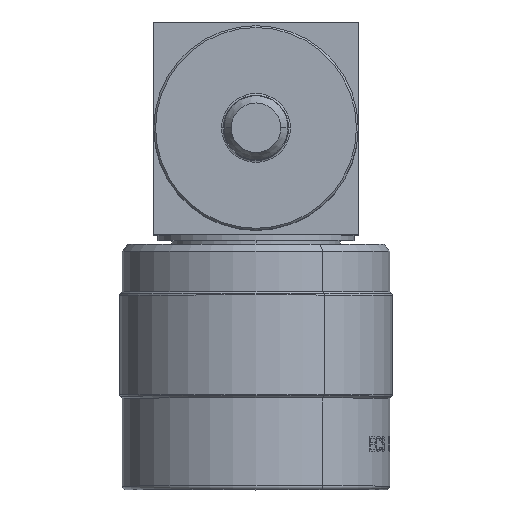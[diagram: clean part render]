
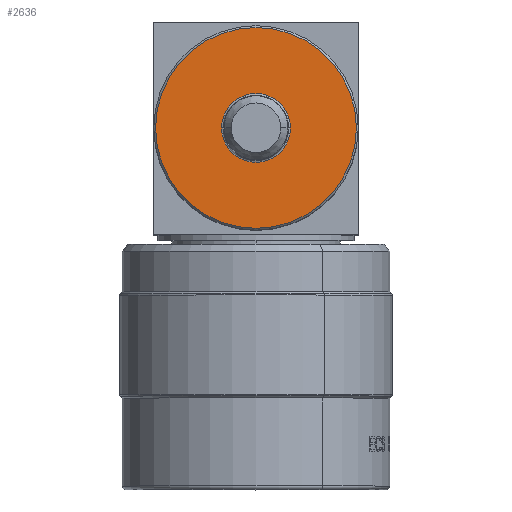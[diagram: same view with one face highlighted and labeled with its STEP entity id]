
A CAD part, top view. The second image highlights one B-rep face of the part: STEP entity #2636.
In plain terms, the highlighted planar face has unit normal (0, 0, 1).
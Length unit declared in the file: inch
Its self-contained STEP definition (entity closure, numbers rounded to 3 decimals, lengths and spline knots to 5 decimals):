
#692=CARTESIAN_POINT('',(0.,0.6155,1.1145));
#693=DIRECTION('',(0.,0.,1.));
#694=DIRECTION('',(1.,0.,0.));
#695=AXIS2_PLACEMENT_3D('',#692,#693,#694);
#697=CARTESIAN_POINT('',(0.,0.6155,1.1145));
#698=DIRECTION('',(0.,0.,1.));
#699=DIRECTION('',(-1.,0.,0.));
#700=AXIS2_PLACEMENT_3D('',#697,#698,#699);
#702=CARTESIAN_POINT('',(0.,0.6155,1.1145));
#703=DIRECTION('',(0.,0.,-1.));
#704=DIRECTION('',(1.,0.,0.));
#705=AXIS2_PLACEMENT_3D('',#702,#703,#704);
#707=CARTESIAN_POINT('',(0.,0.6155,1.1145));
#708=DIRECTION('',(0.,0.,-1.));
#709=DIRECTION('',(-1.,0.,0.));
#710=AXIS2_PLACEMENT_3D('',#707,#708,#709);
#1393=CARTESIAN_POINT('',(-0.094,0.6155,1.1145));
#1394=VERTEX_POINT('',#1393);
#1395=CARTESIAN_POINT('',(0.094,0.6155,1.1145));
#1396=VERTEX_POINT('',#1395);
#1676=CARTESIAN_POINT('',(0.274,0.6155,1.1145));
#1677=CARTESIAN_POINT('',(-0.274,0.6155,1.1145));
#1678=VERTEX_POINT('',#1676);
#1679=VERTEX_POINT('',#1677);
#2620=CARTESIAN_POINT('',(0.,0.6155,1.1145));
#2621=DIRECTION('',(0.,0.,1.));
#2622=DIRECTION('',(1.,0.,0.));
#2623=AXIS2_PLACEMENT_3D('',#2620,#2621,#2622);
#2624=PLANE('',#2623);
#2625=ORIENTED_EDGE('',*,*,#2610,.F.);
#2627=ORIENTED_EDGE('',*,*,#2626,.F.);
#2628=EDGE_LOOP('',(#2625,#2627));
#2629=FACE_OUTER_BOUND('',#2628,.F.);
#2631=ORIENTED_EDGE('',*,*,#2630,.F.);
#2633=ORIENTED_EDGE('',*,*,#2632,.F.);
#2634=EDGE_LOOP('',(#2631,#2633));
#2635=FACE_BOUND('',#2634,.F.);
#2636=ADVANCED_FACE('',(#2629,#2635),#2624,.T.);
#696=CIRCLE('',#695,0.274);
#701=CIRCLE('',#700,0.274);
#706=CIRCLE('',#705,0.094);
#711=CIRCLE('',#710,0.094);
#2610=EDGE_CURVE('',#1678,#1679,#696,.T.);
#2626=EDGE_CURVE('',#1679,#1678,#701,.T.);
#2630=EDGE_CURVE('',#1396,#1394,#706,.T.);
#2632=EDGE_CURVE('',#1394,#1396,#711,.T.);
